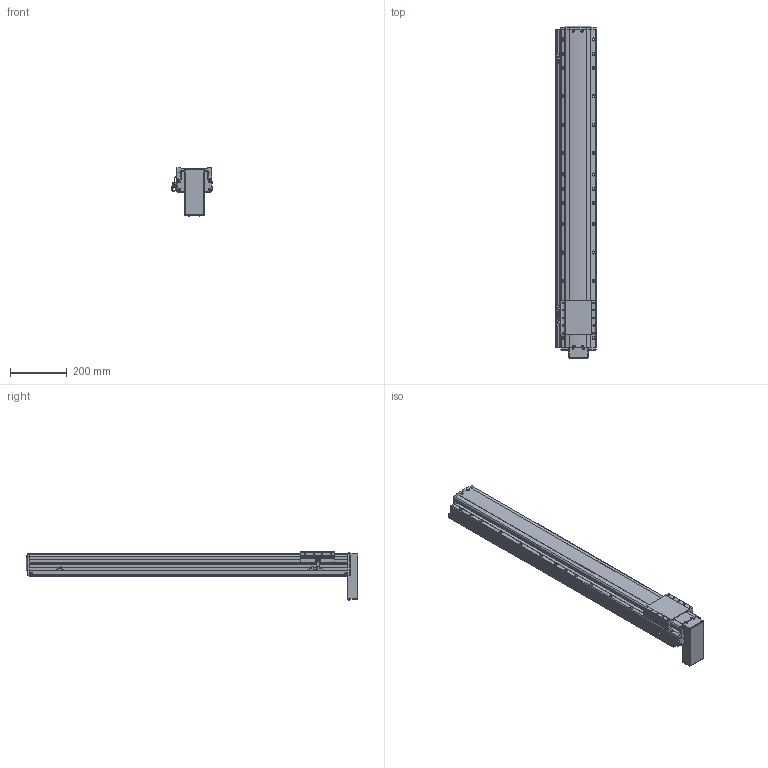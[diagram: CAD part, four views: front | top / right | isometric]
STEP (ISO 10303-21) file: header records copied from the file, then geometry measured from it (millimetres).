
FILE_DESCRIPTION(('STEP AP214'),'1');
FILE_NAME('Z:/Web/3D/PSA125/STP/PSA125-900 (3D)/PSA125ㅁㅁ-900PB+3SL.stp','2014-06-23T05:01:03',(' '),(' '),'Spatial InterOp 3D',' ',' ');
FILE_SCHEMA(('automotive_design'));
Length unit declared in the file: millimetre
Products named in the file (47): 스크루 : Round - M4.0 x 10.0; RRCV-PA120; SLIDE; BASE; FRCV-PA120-1(기준 뿔 제거); RR1500; 스크루 : Round - M4.0 x 6.0; 너트 : Square - M10.0 x 220.7419; 1; 2; 파트105; 스크루 : Round - M3.0 x 6.0; EE-SX674; SBK-SX674-352; M3.0 x 6.0; SRL-16x17-380L; SGD-PA95; 스크루 : Round - M3.0 x 8.0
Bounding box: 141 x 1168.6 x 169.06 mm (x, y, z)
Volume: 9987942.4 mm3; surface area: 924711.5 mm2
Topology: 47 solids, 47 shells, 2703 faces, 7167 edges, 4584 vertices
Faces by surface type: plane 1501, cylinder 776, cone 290, sphere 72, torus 33, bspline 31
Entity records: 107658 total; most frequent: CARTESIAN_POINT 17304, DIRECTION 14448, ORIENTED_EDGE 14026, EDGE_CURVE 7013, AXIS2_PLACEMENT_3D 4912, LINE 4624, VECTOR 4624, VERTEX_POINT 4584
